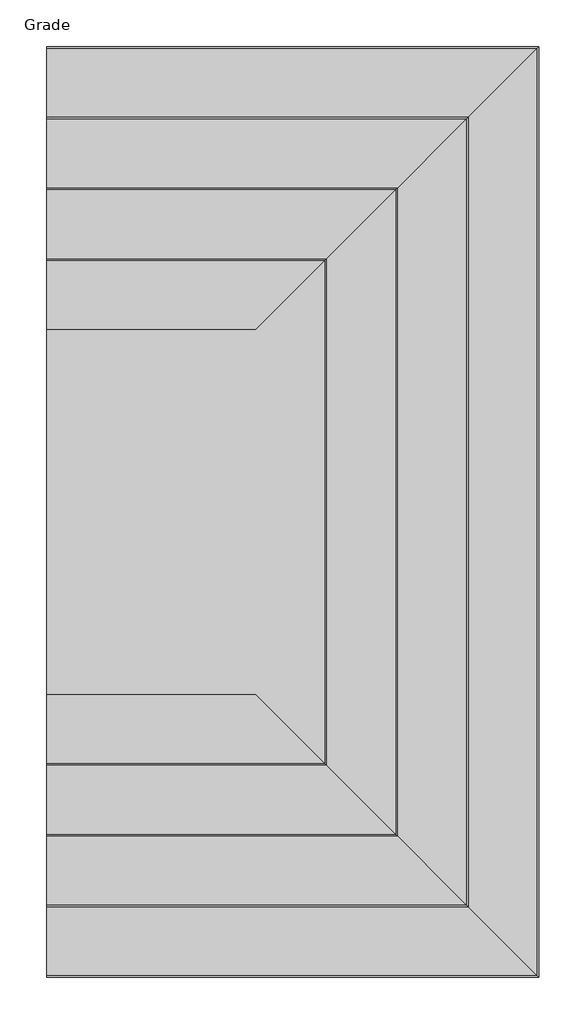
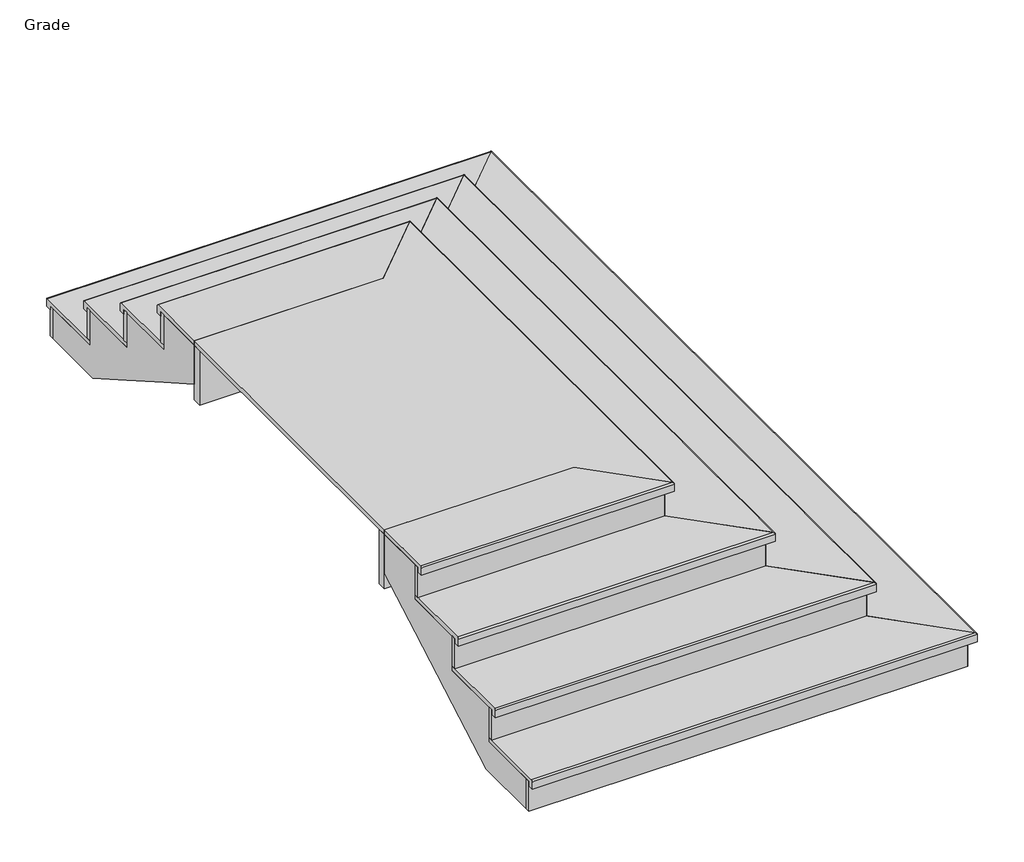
# One storey: 8 members, 3 stair flights.
"""IFC4 building model written with IfcOpenShell, lengths in millimetres."""

from ifc_helpers import new_model, si_unit, origin, place, context, project, spatial, faceted_brep, transform, mapped, element, save
from components import wood_steps_ea31ebe7, wood_steps_071663ab, wood_steps_0b9f8741

model = new_model("IFC4")

# Units and contexts
model_context = context("Model", 3, world=origin())
ifc_project = project(units=[si_unit("LENGTHUNIT", "METRE", prefix="MILLI")], contexts=[model_context])

# Site, building, storey
site = spatial("IfcSite", under=ifc_project)
building = spatial("IfcBuilding", under=site)
storey = spatial("IfcBuildingStorey", under=building, Name="Grade", Elevation=-762.0)

# Members
placement = place(None, origin())
element("IfcMember", 1, ObjectType="Carriage - 1.5\" Width", at=placement, inside=storey, context=model_context, shape_type="Brep", body=[
    faceted_brep([(29522.3170833, 9068.3814651, -762.0), (29522.3170833, 9014.4999284, -762.0), (29262.2914435, 9274.5255682, -762.0), (29289.2322119, 9301.4663365, -762.0), (28722.2170833, 9814.5999284, -171.45), (28722.2170833, 9868.4814651, -171.45), (28553.84862, 10036.8499284, -171.45), (28499.9670833, 10036.8499284, -171.45), (29522.3170833, 9068.3814651, -628.65), (29522.3170833, 9014.4999284, -628.65), (29255.6170833, 9335.0814651, -628.65), (29255.6170833, 9281.1999284, -628.65), (28722.2170833, 9814.5999284, -323.85), (28722.2170833, 9868.4814651, -323.85), (29255.6170833, 9335.0814651, -476.25), (29255.6170833, 9281.1999284, -476.25), (28988.9170833, 9601.7814651, -476.25), (28988.9170833, 9547.8999284, -476.25), (28988.9170833, 9601.7814651, -323.85), (28988.9170833, 9547.8999284, -323.85), (28553.84862, 10036.8499284, -341.7808046), (28499.9670833, 10036.8499284, -326.3860799), (28722.2170833, 9814.5999284, -453.3860799), (28988.9170833, 9547.8999284, -605.7860799), (29255.6170833, 9281.1999284, -758.1860799)], [[[0, 1, 2, 3]], [[4, 5, 6, 7]], [[8, 9, 1, 0]], [[9, 8, 10, 11]], [[5, 4, 12, 13]], [[11, 10, 14, 15]], [[15, 14, 16, 17]], [[17, 16, 18, 19]], [[19, 18, 13, 12]], [[3, 20, 6, 5, 13, 18, 16, 14, 10, 8, 0]], [[7, 21, 22, 23, 24, 2, 1, 9, 11, 15, 17, 19, 12, 4]], [[20, 21, 7, 6]], [[21, 20, 3, 2, 24, 23, 22]]]),
])
element("IfcMember", 2, ObjectType="Carriage - 1.5\" Width", at=placement, inside=storey, context=model_context, shape_type="Brep", body=[
    faceted_brep([(29522.3170833, 12430.7999284, -762.0), (29522.3170833, 12376.9183917, -762.0), (29289.2322119, 12143.8335203, -762.0), (29262.2914435, 12170.7742887, -762.0), (28722.2170833, 11576.8183917, -171.45), (28722.2170833, 11630.6999284, -171.45), (28499.9670833, 11408.4499284, -171.45), (28553.84862, 11408.4499284, -171.45), (29522.3170833, 12430.7999284, -628.65), (29522.3170833, 12376.9183917, -628.65), (29255.6170833, 12164.0999284, -628.65), (29255.6170833, 12110.2183917, -628.65), (28722.2170833, 11576.8183917, -323.85), (28722.2170833, 11630.6999284, -323.85), (29255.6170833, 12164.0999284, -476.25), (29255.6170833, 12110.2183917, -476.25), (28988.9170833, 11897.3999284, -476.25), (28988.9170833, 11843.5183917, -476.25), (28988.9170833, 11897.3999284, -323.85), (28988.9170833, 11843.5183917, -323.85), (28499.9670833, 11408.4499284, -326.3860799), (29255.6170833, 12164.0999284, -758.1860799), (28988.9170833, 11897.3999284, -605.7860799), (28722.2170833, 11630.6999284, -453.3860799), (28553.84862, 11408.4499284, -341.7808046)], [[[0, 1, 2, 3]], [[4, 5, 6, 7]], [[8, 9, 1, 0]], [[9, 8, 10, 11]], [[5, 4, 12, 13]], [[11, 10, 14, 15]], [[15, 14, 16, 17]], [[17, 16, 18, 19]], [[19, 18, 13, 12]], [[20, 6, 5, 13, 18, 16, 14, 10, 8, 0, 3, 21, 22, 23]], [[7, 24, 2, 1, 9, 11, 15, 17, 19, 12, 4]], [[20, 24, 7, 6]], [[24, 20, 23, 22, 21, 3, 2]]]),
])
element("IfcMember", 3, ObjectType="Carriage - 1.5\" Width", at=placement, inside=storey, context=model_context, shape_type="Brep", body=[
    faceted_brep([(29522.3170833, 12430.7999284, -762.0), (29262.2914435, 12170.7742887, -762.0), (29235.3506752, 12197.715057, -762.0), (29468.4355465, 12430.7999284, -762.0), (28473.0263149, 11435.3906968, -326.3860799), (28499.9670833, 11408.4499284, -326.3860799), (28499.9670833, 11408.4499284, -171.45), (28473.0263149, 11435.3906968, -171.45), (29255.6170833, 12164.0999284, -758.1860799), (28988.9170833, 11897.3999284, -605.7860799), (28722.2170833, 11630.6999284, -453.3860799), (29522.3170833, 12430.7999284, -628.65), (29255.6170833, 12164.0999284, -628.65), (29255.6170833, 12164.0999284, -476.25), (28988.9170833, 11897.3999284, -476.25), (28988.9170833, 11897.3999284, -323.85), (28722.2170833, 11630.6999284, -323.85), (28722.2170833, 11630.6999284, -171.45), (28668.3355465, 11630.6999284, -171.45), (28668.3355465, 11630.6999284, -323.85), (28935.0355465, 11897.3999284, -323.85), (28935.0355465, 11897.3999284, -476.25), (29201.7355465, 12164.0999284, -476.25), (29201.7355465, 12164.0999284, -628.65), (29468.4355465, 12430.7999284, -628.65)], [[[0, 1, 2, 3]], [[4, 5, 6, 7]], [[5, 4, 2, 1, 8, 9, 10]], [[6, 5, 10, 9, 8, 1, 0, 11, 12, 13, 14, 15, 16, 17]], [[17, 18, 7, 6]], [[4, 7, 18, 19, 20, 21, 22, 23, 24, 3, 2]], [[24, 11, 0, 3]], [[11, 24, 23, 12]], [[18, 17, 16, 19]], [[12, 23, 22, 13]], [[13, 22, 21, 14]], [[14, 21, 20, 15]], [[15, 20, 19, 16]]]),
])
element("IfcMember", 4, ObjectType="Carriage - 1.5\" Width", at=placement, inside=storey, context=model_context, shape_type="Brep", body=[
    faceted_brep([(27750.6670833, 12430.7999284, -762.0), (27750.6670833, 12141.4857449, -762.0), (27712.5670833, 12141.4857449, -762.0), (27712.5670833, 12430.7999284, -762.0), (27712.5670833, 11408.4499284, -343.1223906), (27750.6670833, 11408.4499284, -343.1223906), (27750.6670833, 11408.4499284, -171.45), (27712.5670833, 11408.4499284, -171.45), (27712.5670833, 11630.6999284, -470.1223906), (27712.5670833, 11897.3999284, -622.5223906), (27750.6670833, 12430.7999284, -628.65), (27750.6670833, 12164.0999284, -628.65), (27750.6670833, 12164.0999284, -476.25), (27750.6670833, 11897.3999284, -476.25), (27750.6670833, 11897.3999284, -323.85), (27750.6670833, 11630.6999284, -323.85), (27750.6670833, 11630.6999284, -171.45), (27712.5670833, 11630.6999284, -171.45), (27712.5670833, 11630.6999284, -323.85), (27712.5670833, 11897.3999284, -323.85), (27712.5670833, 11897.3999284, -476.25), (27712.5670833, 12164.0999284, -476.25), (27712.5670833, 12164.0999284, -628.65), (27712.5670833, 12430.7999284, -628.65)], [[[0, 1, 2, 3]], [[4, 5, 6, 7]], [[5, 4, 8, 9, 2, 1]], [[6, 5, 1, 0, 10, 11, 12, 13, 14, 15, 16]], [[16, 17, 7, 6]], [[4, 7, 17, 18, 19, 20, 21, 22, 23, 3, 2, 9, 8]], [[23, 10, 0, 3]], [[10, 23, 22, 11]], [[17, 16, 15, 18]], [[11, 22, 21, 12]], [[12, 21, 20, 13]], [[13, 20, 19, 14]], [[14, 19, 18, 15]]]),
])
element("IfcMember", 5, ObjectType="Carriage - 1.5\" Width", at=placement, inside=storey, context=model_context, shape_type="Brep", body=[
    faceted_brep([(27712.5670833, 9014.4999284, -762.0), (27712.5670833, 9303.8141119, -762.0), (27750.6670833, 9303.8141119, -762.0), (27750.6670833, 9014.4999284, -762.0), (27750.6670833, 10036.8499284, -343.1223906), (27712.5670833, 10036.8499284, -343.1223906), (27712.5670833, 10036.8499284, -171.45), (27750.6670833, 10036.8499284, -171.45), (27712.5670833, 9547.8999284, -622.5223906), (27712.5670833, 9814.5999284, -470.1223906), (27712.5670833, 9014.4999284, -628.65), (27712.5670833, 9281.1999284, -628.65), (27712.5670833, 9281.1999284, -476.25), (27712.5670833, 9547.8999284, -476.25), (27712.5670833, 9547.8999284, -323.85), (27712.5670833, 9814.5999284, -323.85), (27712.5670833, 9814.5999284, -171.45), (27750.6670833, 9814.5999284, -171.45), (27750.6670833, 9814.5999284, -323.85), (27750.6670833, 9547.8999284, -323.85), (27750.6670833, 9547.8999284, -476.25), (27750.6670833, 9281.1999284, -476.25), (27750.6670833, 9281.1999284, -628.65), (27750.6670833, 9014.4999284, -628.65)], [[[0, 1, 2, 3]], [[4, 5, 6, 7]], [[5, 4, 2, 1, 8, 9]], [[6, 5, 9, 8, 1, 0, 10, 11, 12, 13, 14, 15, 16]], [[16, 17, 7, 6]], [[4, 7, 17, 18, 19, 20, 21, 22, 23, 3, 2]], [[23, 10, 0, 3]], [[10, 23, 22, 11]], [[17, 16, 15, 18]], [[11, 22, 21, 12]], [[12, 21, 20, 13]], [[13, 20, 19, 14]], [[14, 19, 18, 15]]]),
])
element("IfcMember", 6, ObjectType="Carriage - 1.5\" Width", at=placement, inside=storey, context=model_context, shape_type="Brep", body=[
    faceted_brep([(29468.4355465, 9014.4999284, -762.0), (29235.3506752, 9247.5847998, -762.0), (29262.2914435, 9274.5255682, -762.0), (29522.3170833, 9014.4999284, -762.0), (28499.9670833, 10036.8499284, -326.3860799), (28473.0263149, 10009.90916, -326.3860799), (28473.0263149, 10009.90916, -171.45), (28499.9670833, 10036.8499284, -171.45), (28722.2170833, 9814.5999284, -453.3860799), (28988.9170833, 9547.8999284, -605.7860799), (29255.6170833, 9281.1999284, -758.1860799), (29468.4355465, 9014.4999284, -628.65), (29201.7355465, 9281.1999284, -628.65), (29201.7355465, 9281.1999284, -476.25), (28935.0355465, 9547.8999284, -476.25), (28935.0355465, 9547.8999284, -323.85), (28668.3355465, 9814.5999284, -323.85), (28668.3355465, 9814.5999284, -171.45), (28722.2170833, 9814.5999284, -171.45), (28722.2170833, 9814.5999284, -323.85), (28988.9170833, 9547.8999284, -323.85), (28988.9170833, 9547.8999284, -476.25), (29255.6170833, 9281.1999284, -476.25), (29255.6170833, 9281.1999284, -628.65), (29522.3170833, 9014.4999284, -628.65)], [[[0, 1, 2, 3]], [[4, 5, 6, 7]], [[5, 4, 8, 9, 10, 2, 1]], [[6, 5, 1, 0, 11, 12, 13, 14, 15, 16, 17]], [[17, 18, 7, 6]], [[4, 7, 18, 19, 20, 21, 22, 23, 24, 3, 2, 10, 9, 8]], [[24, 11, 0, 3]], [[11, 24, 23, 12]], [[18, 17, 16, 19]], [[12, 23, 22, 13]], [[13, 22, 21, 14]], [[14, 21, 20, 15]], [[15, 20, 19, 16]]]),
])
element("IfcMember", 7, ObjectType="Carriage - 1.5\" Width", at=placement, inside=storey, context=model_context, shape_type="Brep", body=[
    faceted_brep([(27712.5670833, 10074.9499284, -412.75), (27712.5670833, 10036.8499284, -412.75), (27712.5670833, 10036.8499284, -171.45), (27712.5670833, 10074.9499284, -171.45), (28499.9670833, 10036.8499284, -412.75), (28553.84862, 10036.8499284, -412.75), (28553.84862, 10036.8499284, -171.45), (28499.9670833, 10036.8499284, -171.45), (28515.74862, 10074.9499284, -412.75), (28515.74862, 10074.9499284, -171.45)], [[[0, 1, 2, 3]], [[2, 1, 4, 5, 6, 7]], [[1, 0, 8, 5, 4]], [[8, 0, 3, 9]], [[3, 2, 7, 6, 9]], [[5, 8, 9, 6]]]),
])
element("IfcMember", 8, ObjectType="Carriage - 1.5\" Width", at=placement, inside=storey, context=model_context, shape_type="Brep", body=[
    faceted_brep([(27712.5670833, 11408.4499284, -412.75), (27712.5670833, 11370.3499284, -412.75), (27712.5670833, 11370.3499284, -171.45), (27712.5670833, 11408.4499284, -171.45), (28515.74862, 11370.3499284, -412.75), (28515.74862, 11370.3499284, -171.45), (28499.9670833, 11408.4499284, -412.75), (28553.84862, 11408.4499284, -412.75), (28499.9670833, 11408.4499284, -171.45), (28553.84862, 11408.4499284, -171.45)], [[[0, 1, 2, 3]], [[1, 4, 5, 2]], [[1, 0, 6, 7, 4]], [[0, 3, 8, 9, 7, 6]], [[3, 2, 5, 9, 8]], [[4, 7, 9, 5]]]),
])

# Stair flights
wood_steps_shape = wood_steps_ea31ebe7(model_context)
element("IfcStairFlight", 9, ObjectType="Wood Steps", at=placement, inside=storey, context=model_context, shape_type="MappedRepresentation", body=[
    mapped(wood_steps_shape, transform((0.0, 0.0, 0.0), x_axis=(1.0, 0.0, 0.0), y_axis=(0.0, 1.0, 0.0), z_axis=(0.0, 0.0, 1.0))),
])
wood_steps_2_shape = wood_steps_071663ab(model_context)
element("IfcStairFlight", 10, ObjectType="Wood Steps", at=placement, inside=storey, context=model_context, shape_type="MappedRepresentation", body=[
    mapped(wood_steps_2_shape, transform((0.0, 0.0, 0.0), x_axis=(1.0, 0.0, 0.0), y_axis=(0.0, 1.0, 0.0), z_axis=(0.0, 0.0, 1.0))),
])
wood_steps_3_shape = wood_steps_0b9f8741(model_context)
element("IfcStairFlight", 11, ObjectType="Wood Steps", at=placement, inside=storey, context=model_context, shape_type="MappedRepresentation", body=[
    mapped(wood_steps_3_shape, transform((0.0, 0.0, 0.0), x_axis=(1.0, 0.0, 0.0), y_axis=(0.0, 1.0, 0.0), z_axis=(0.0, 0.0, 1.0))),
])

save(model, "model.ifc")
